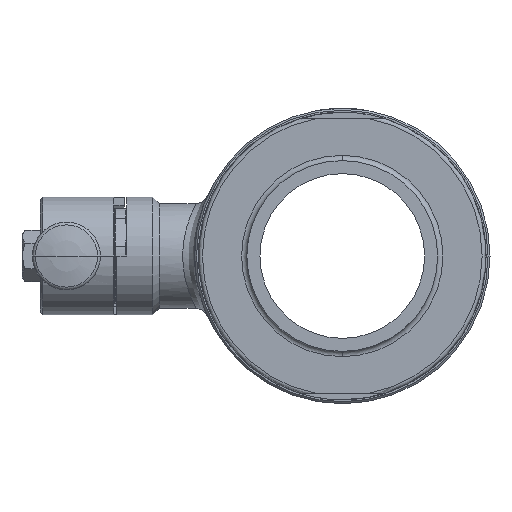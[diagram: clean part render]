
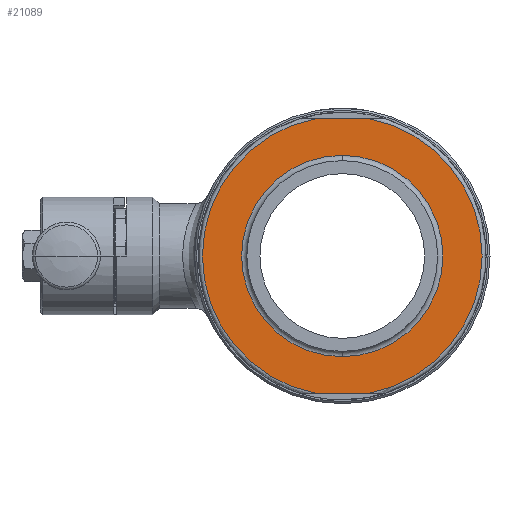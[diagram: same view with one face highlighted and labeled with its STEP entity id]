
A CAD part, left-side view. The second image highlights one B-rep face of the part: STEP entity #21089.
In plain terms, the highlighted planar face has unit normal (-1, 0, 0).
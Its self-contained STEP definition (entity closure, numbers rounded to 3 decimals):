
#4028=DIRECTION('',(0.,1.,0.));
#4029=VECTOR('',#4028,20.591);
#4030=CARTESIAN_POINT('',(-56.,-10.296,-52.5));
#4031=LINE('',#4030,#4029);
#4035=CARTESIAN_POINT('',(-56.,0.,0.));
#4036=DIRECTION('',(-1.,0.,0.));
#4037=DIRECTION('',(0.,0.192,0.981));
#4038=AXIS2_PLACEMENT_3D('',#4035,#4036,#4037);
#4043=DIRECTION('',(0.,1.,0.));
#4044=VECTOR('',#4043,20.591);
#4045=CARTESIAN_POINT('',(-56.,-10.296,52.5));
#4046=LINE('',#4045,#4044);
#4050=CARTESIAN_POINT('',(-56.,0.,0.));
#4051=DIRECTION('',(-1.,0.,0.));
#4052=DIRECTION('',(0.,-0.192,-0.981));
#4053=AXIS2_PLACEMENT_3D('',#4050,#4051,#4052);
#4058=CARTESIAN_POINT('',(-56.,0.,0.));
#4059=DIRECTION('',(-1.,0.,0.));
#4060=DIRECTION('',(0.,0.,1.));
#4061=AXIS2_PLACEMENT_3D('',#4058,#4059,#4060);
#4066=CARTESIAN_POINT('',(-56.,0.,0.));
#4067=DIRECTION('',(-1.,0.,0.));
#4068=DIRECTION('',(0.,0.,-1.));
#4069=AXIS2_PLACEMENT_3D('',#4066,#4067,#4068);
#17428=CARTESIAN_POINT('',(-56.,-10.296,-52.5));
#17429=CARTESIAN_POINT('',(-56.,10.296,-52.5));
#17430=VERTEX_POINT('',#17428);
#17431=VERTEX_POINT('',#17429);
#17432=CARTESIAN_POINT('',(-56.,-10.296,52.5));
#17433=CARTESIAN_POINT('',(-56.,10.296,52.5));
#17434=VERTEX_POINT('',#17432);
#17435=VERTEX_POINT('',#17433);
#17446=CARTESIAN_POINT('',(-56.,0.,38.5));
#17447=CARTESIAN_POINT('',(-56.,0.,-38.5));
#17448=VERTEX_POINT('',#17446);
#17449=VERTEX_POINT('',#17447);
#21069=CARTESIAN_POINT('',(-56.,0.,0.));
#21070=DIRECTION('',(-1.,0.,0.));
#21071=DIRECTION('',(0.,0.,1.));
#21072=AXIS2_PLACEMENT_3D('',#21069,#21070,#21071);
#21073=PLANE('',#21072);
#21075=ORIENTED_EDGE('',*,*,#21074,.T.);
#21077=ORIENTED_EDGE('',*,*,#21076,.F.);
#21079=ORIENTED_EDGE('',*,*,#21078,.F.);
#21081=ORIENTED_EDGE('',*,*,#21080,.F.);
#21082=EDGE_LOOP('',(#21075,#21077,#21079,#21081));
#21083=FACE_OUTER_BOUND('',#21082,.F.);
#21084=ORIENTED_EDGE('',*,*,#21059,.T.);
#21086=ORIENTED_EDGE('',*,*,#21085,.T.);
#21087=EDGE_LOOP('',(#21084,#21086));
#21088=FACE_BOUND('',#21087,.F.);
#21089=ADVANCED_FACE('',(#21083,#21088),#21073,.T.);
#4039=CIRCLE('',#4038,53.5);
#4054=CIRCLE('',#4053,53.5);
#4062=CIRCLE('',#4061,38.5);
#4070=CIRCLE('',#4069,38.5);
#21059=EDGE_CURVE('',#17448,#17449,#4062,.T.);
#21074=EDGE_CURVE('',#17430,#17431,#4031,.T.);
#21076=EDGE_CURVE('',#17435,#17431,#4039,.T.);
#21078=EDGE_CURVE('',#17434,#17435,#4046,.T.);
#21080=EDGE_CURVE('',#17430,#17434,#4054,.T.);
#21085=EDGE_CURVE('',#17449,#17448,#4070,.T.);
